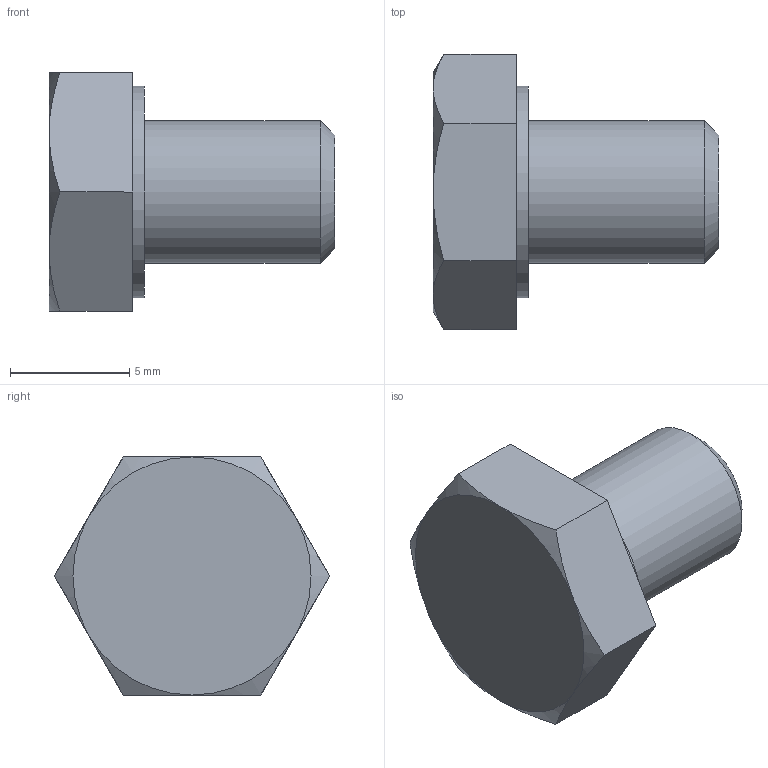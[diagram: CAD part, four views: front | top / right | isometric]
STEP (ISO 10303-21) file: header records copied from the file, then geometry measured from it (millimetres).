
FILE_DESCRIPTION(/* description */ ('6각 머리 볼트 및 6각 머리 나사'),/* implementation_level */ '2;1');
FILE_NAME(/* name */ '',/* time_stamp */ '2025-10-01T16:42:44+09:00',/* author */ ('jhkim'),/* organization */ (''),/* preprocessor_version */ 'ST-DEVELOPER v20.1',/* originating_system */ 'Autodesk Inventor 2026',/* authorisation */ '');
FILE_SCHEMA (('AUTOMOTIVE_DESIGN { 1 0 10303 214 3 1 1 }'));
Length unit declared in the file: millimetre
Products named in the file (1): 6각 머리 볼트 M6x0.75x
8
Bounding box: 12 x 11.55 x 10 mm (x, y, z)
Volume: 555.9 mm3; surface area: 447.9 mm2
Topology: 1 solids, 1 shells, 19 faces, 39 edges, 24 vertices
Faces by surface type: plane 10, cone 7, cylinder 2
Full cylindrical faces by diameter (mm): 6 x1, 8.88 x1
Entity records: 528 total; most frequent: CARTESIAN_POINT 107, DIRECTION 79, ORIENTED_EDGE 78, EDGE_CURVE 39, AXIS2_PLACEMENT_3D 32, VERTEX_POINT 24, EDGE_LOOP 21, FACE_OUTER_BOUND 19
